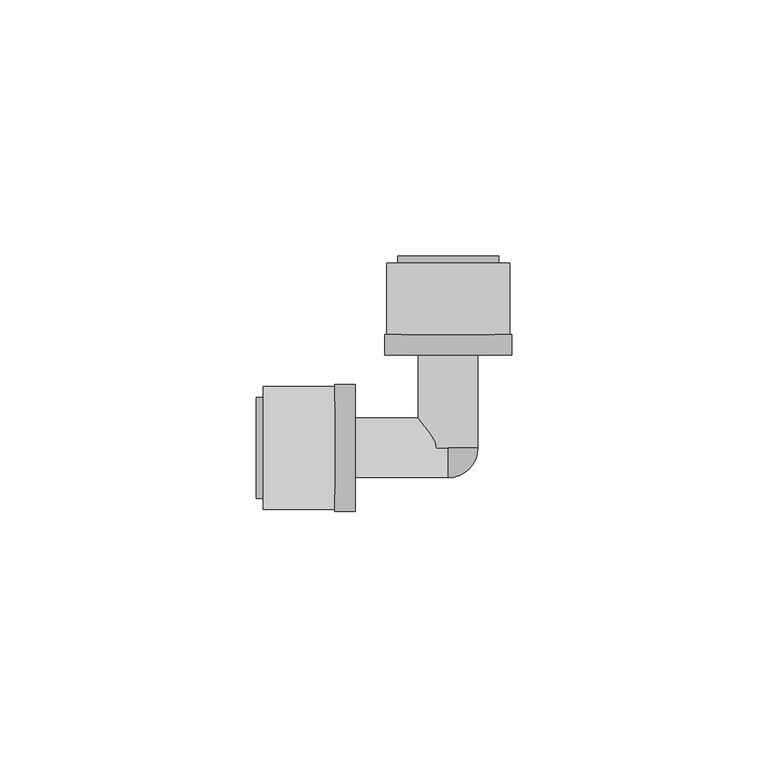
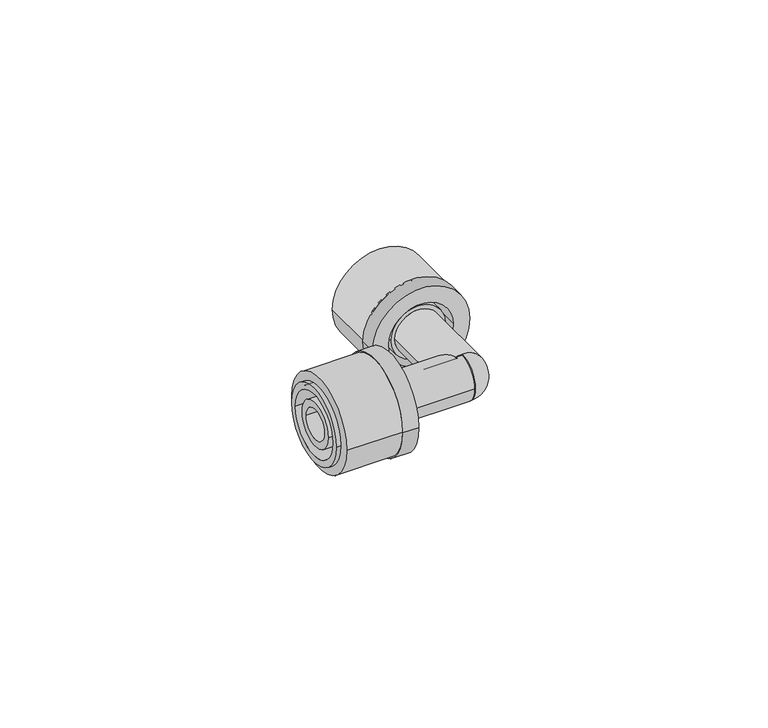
"""IFC4 building model written with IfcOpenShell, lengths in millimetres: pipe fitting geometry, FASTLOC_Corner EX+ : FSL C EX+ AT."""

from ifc_helpers import new_model, si_unit, point, frame, origin, origin_2d, place, context, project, spatial, polyline, circle_curve, ellipse_curve, trimmed, segment, composite_curve, outline, extrude, source, transform, mapped, element, save
from ifc_brep_helpers import plane_surface, cylinder_surface, revolved_surface, advanced_brep


def pipe_fitting_792aeb1b(model_context):
    return source(origin(), model_context, "Body", "SolidModel", [
        extrude(outline(composite_curve([segment(trimmed(circle_curve(origin_2d(), 12.0), [point((0.0, 12.0))], [point((0.0, -12.0))], False, "CARTESIAN"), True, "CONTINUOUS"), segment(trimmed(circle_curve(origin_2d(), 12.0), [point((0.0, -12.0))], [point((0.0, 12.0))], False, "CARTESIAN"), True, "CONTINUOUS")], self_intersect=False), holes=[composite_curve([segment(trimmed(circle_curve(origin_2d(), 8.85), [point((0.0, 8.85))], [point((0.0, -8.85))], True, "CARTESIAN"), True, "CONTINUOUS"), segment(trimmed(circle_curve(origin_2d(), 8.85), [point((0.0, -8.85))], [point((0.0, 8.85))], True, "CARTESIAN"), True, "CONTINUOUS")], self_intersect=False)]), frame((0.0, 22.1, 0.0), z_axis=(0.0, 1.0, 0.0), x_axis=(0.0, 0.0, 1.0)), (0.0, 0.0, 1.0), 14.0),
        advanced_brep(
        [(-12.35, 22.1, 0.0), (12.35, 22.1, 0.0), (12.35, 18.1, 0.0), (-12.35, 18.1, 0.0), (-9.85, 37.4, 0.0), (9.85, 37.4, 0.0), (9.85, 22.1, 0.0), (-9.85, 22.1, 0.0), (-8.15, 18.1, 0.0), (8.15, 18.1, 0.0), (8.15, 37.4, 0.0), (-8.15, 37.4, 0.0)],
        [
            (0, 1, circle_curve(frame((0.0, 22.1, 0.0), z_axis=(0.0, -1.0, 0.0), x_axis=(1.0, 0.0, 0.0)), 12.35)),
            (1, 2),
            (2, 3, circle_curve(frame((0.0, 18.1, 0.0), z_axis=(0.0, 1.0, 0.0), x_axis=(1.0, 0.0, 0.0)), 12.35)),
            (3, 0),
            (4, 5, circle_curve(frame((0.0, 37.4, 0.0), z_axis=(0.0, -1.0, 0.0), x_axis=(1.0, 0.0, 0.0)), 9.85)),
            (5, 6),
            (6, 7, circle_curve(frame((0.0, 22.1, 0.0), z_axis=(0.0, 1.0, 0.0), x_axis=(1.0, 0.0, 0.0)), 9.85)),
            (7, 4),
            (8, 9, circle_curve(frame((0.0, 18.1, 0.0), z_axis=(0.0, -1.0, 0.0), x_axis=(1.0, 0.0, 0.0)), 8.15)),
            (9, 10),
            (10, 11, circle_curve(frame((0.0, 37.4, 0.0), z_axis=(0.0, 1.0, 0.0), x_axis=(1.0, 0.0, 0.0)), 8.15)),
            (11, 8),
            (1, 0, circle_curve(frame((0.0, 22.1, 0.0), z_axis=(0.0, -1.0, 0.0), x_axis=(-1.0, 0.0, 0.0)), 12.35)),
            (3, 2, circle_curve(frame((0.0, 18.1, 0.0), z_axis=(0.0, 1.0, 0.0), x_axis=(-1.0, 0.0, 0.0)), 12.35)),
            (6, 7, circle_curve(frame((0.0, 22.1, 0.0), z_axis=(0.0, -1.0, 0.0), x_axis=(-1.0, 0.0, 0.0)), 9.85)),
            (5, 4, circle_curve(frame((0.0, 37.4, 0.0), z_axis=(0.0, -1.0, 0.0), x_axis=(-1.0, 0.0, 0.0)), 9.85)),
            (10, 11, circle_curve(frame((0.0, 37.4, 0.0), z_axis=(0.0, -1.0, 0.0), x_axis=(-1.0, 0.0, 0.0)), 8.15)),
            (9, 8, circle_curve(frame((0.0, 18.1, 0.0), z_axis=(0.0, -1.0, 0.0), x_axis=(-1.0, 0.0, 0.0)), 8.15)),
        ],
        [
            cylinder_surface(frame((0.0, 18.1, 0.0), z_axis=(0.0, 1.0, 0.0), x_axis=(1.0, 0.0, 0.0)), 12.35),
            cylinder_surface(frame((0.0, 18.1, 0.0), z_axis=(0.0, 1.0, 0.0), x_axis=(1.0, 0.0, 0.0)), 9.85),
            revolved_surface(polyline([(8.15, 37.4, 0.0), (8.15, 18.1, 0.0)]), (0.0, 18.1, 0.0), (0.0, 1.0, 0.0)),
            cylinder_surface(frame((0.0, 18.1, 0.0), z_axis=(0.0, 1.0, 0.0), x_axis=(-1.0, 0.0, 0.0)), 12.35),
            plane_surface(frame((0.0, 22.1, 0.0), z_axis=(0.0, 1.0, 0.0), x_axis=(-1.0, 0.0, 0.0))),
            cylinder_surface(frame((0.0, 18.1, 0.0), z_axis=(0.0, 1.0, 0.0), x_axis=(-1.0, 0.0, 0.0)), 9.85),
            plane_surface(frame((0.0, 37.4, 0.0), z_axis=(0.0, 1.0, 0.0), x_axis=(-1.0, 0.0, 0.0))),
            revolved_surface(polyline([(-8.15, 37.4, 0.0), (-8.15, 18.1, 0.0)]), (0.0, 18.1, 0.0), (0.0, 1.0, 0.0)),
            plane_surface(frame((0.0, 18.1, 0.0), z_axis=(0.0, -1.0, 0.0), x_axis=(-1.0, 0.0, 0.0))),
        ],
        [
            (0, [[1, 2, 3, 4]]),
            (1, [[5, 6, 7, 8]]),
            (2, [[9, 10, 11, 12]]),
            (3, [[13, -4, 14, -2]]),
            (4, [[-13, -1], [15, -7]]),
            (5, [[16, -8, -15, -6]]),
            (6, [[-16, -5], [17, -11]]),
            (7, [[18, -12, -17, -10]]),
            (8, [[-14, -3], [-18, -9]]),
        ],
    ),
        extrude(outline(composite_curve([segment(trimmed(circle_curve(origin_2d(), 12.0), [point((12.0, 0.0))], [point((-12.0, 0.0))], False, "CARTESIAN"), True, "CONTINUOUS"), segment(trimmed(circle_curve(origin_2d(), 12.0), [point((-12.0, 0.0))], [point((12.0, 0.0))], False, "CARTESIAN"), True, "CONTINUOUS")], self_intersect=False), holes=[composite_curve([segment(trimmed(circle_curve(origin_2d(), 8.85), [point((8.85, 0.0))], [point((-8.85, 0.0))], True, "CARTESIAN"), True, "CONTINUOUS"), segment(trimmed(circle_curve(origin_2d(), 8.85), [point((-8.85, 0.0))], [point((8.85, 0.0))], True, "CARTESIAN"), True, "CONTINUOUS")], self_intersect=False)]), frame((-36.1, 0.0, 0.0), z_axis=(1.0, 0.0, 0.0), x_axis=(0.0, 1.0, 0.0)), (0.0, 0.0, 1.0), 14.0),
        advanced_brep(
        [(-22.1, -12.35, 0.0), (-22.1, 12.35, 0.0), (-18.1, 12.35, 0.0), (-18.1, -12.35, 0.0), (-37.4, -9.85, 0.0), (-37.4, 9.85, 0.0), (-22.1, 9.85, 0.0), (-22.1, -9.85, 0.0), (-18.1, -8.15, 0.0), (-18.1, 8.15, 0.0), (-37.4, 8.15, 0.0), (-37.4, -8.15, 0.0)],
        [
            (0, 1, circle_curve(frame((-22.1, 0.0, 0.0), z_axis=(1.0, 0.0, 0.0), x_axis=(0.0, 1.0, 0.0)), 12.35)),
            (1, 2),
            (2, 3, circle_curve(frame((-18.1, 0.0, 0.0), z_axis=(-1.0, 0.0, 0.0), x_axis=(0.0, 1.0, 0.0)), 12.35)),
            (3, 0),
            (4, 5, circle_curve(frame((-37.4, 0.0, 0.0), z_axis=(1.0, 0.0, 0.0), x_axis=(0.0, 1.0, 0.0)), 9.85)),
            (5, 6),
            (6, 7, circle_curve(frame((-22.1, 0.0, 0.0), z_axis=(-1.0, 0.0, 0.0), x_axis=(0.0, 1.0, 0.0)), 9.85)),
            (7, 4),
            (8, 9, circle_curve(frame((-18.1, 0.0, 0.0), z_axis=(1.0, 0.0, 0.0), x_axis=(0.0, 1.0, 0.0)), 8.15)),
            (9, 10),
            (10, 11, circle_curve(frame((-37.4, 0.0, 0.0), z_axis=(-1.0, 0.0, 0.0), x_axis=(0.0, 1.0, 0.0)), 8.15)),
            (11, 8),
            (1, 0, circle_curve(frame((-22.1, 0.0, 0.0), z_axis=(1.0, 0.0, 0.0), x_axis=(0.0, -1.0, 0.0)), 12.35)),
            (3, 2, circle_curve(frame((-18.1, 0.0, 0.0), z_axis=(-1.0, 0.0, 0.0), x_axis=(0.0, -1.0, 0.0)), 12.35)),
            (6, 7, circle_curve(frame((-22.1, 0.0, 0.0), z_axis=(1.0, 0.0, 0.0), x_axis=(0.0, -1.0, 0.0)), 9.85)),
            (5, 4, circle_curve(frame((-37.4, 0.0, 0.0), z_axis=(1.0, 0.0, 0.0), x_axis=(0.0, -1.0, 0.0)), 9.85)),
            (10, 11, circle_curve(frame((-37.4, 0.0, 0.0), z_axis=(1.0, 0.0, 0.0), x_axis=(0.0, -1.0, 0.0)), 8.15)),
            (9, 8, circle_curve(frame((-18.1, 0.0, 0.0), z_axis=(1.0, 0.0, 0.0), x_axis=(0.0, -1.0, 0.0)), 8.15)),
        ],
        [
            cylinder_surface(frame((-18.1, 0.0, 0.0), z_axis=(-1.0, 0.0, 0.0), x_axis=(0.0, 1.0, 0.0)), 12.35),
            cylinder_surface(frame((-18.1, 0.0, 0.0), z_axis=(-1.0, 0.0, 0.0), x_axis=(0.0, 1.0, 0.0)), 9.85),
            revolved_surface(polyline([(-37.4, 8.15, 0.0), (-18.1, 8.15, 0.0)]), (-18.1, 0.0, 0.0), (-1.0, 0.0, 0.0)),
            cylinder_surface(frame((-18.1, 0.0, 0.0), z_axis=(-1.0, 0.0, 0.0), x_axis=(0.0, -1.0, 0.0)), 12.35),
            plane_surface(frame((-22.1, 0.0, 0.0), z_axis=(-1.0, 0.0, 0.0), x_axis=(0.0, -1.0, 0.0))),
            cylinder_surface(frame((-18.1, 0.0, 0.0), z_axis=(-1.0, 0.0, 0.0), x_axis=(0.0, -1.0, 0.0)), 9.85),
            plane_surface(frame((-37.4, 0.0, 0.0), z_axis=(-1.0, 0.0, 0.0), x_axis=(0.0, -1.0, 0.0))),
            revolved_surface(polyline([(-37.4, -8.15, 0.0), (-18.1, -8.15, 0.0)]), (-18.1, 0.0, 0.0), (-1.0, 0.0, 0.0)),
            plane_surface(frame((-18.1, 0.0, 0.0), z_axis=(1.0, 0.0, 0.0), x_axis=(0.0, -1.0, 0.0))),
        ],
        [
            (0, [[1, 2, 3, 4]]),
            (1, [[5, 6, 7, 8]]),
            (2, [[9, 10, 11, 12]]),
            (3, [[13, -4, 14, -2]]),
            (4, [[-13, -1], [15, -7]]),
            (5, [[16, -8, -15, -6]]),
            (6, [[-16, -5], [17, -11]]),
            (7, [[18, -12, -17, -10]]),
            (8, [[-14, -3], [-18, -9]]),
        ],
    ),
        advanced_brep(
        [(0.0, 0.0, 5.8), (0.0, 0.0, 0.0), (0.0, -5.8, 0.0), (0.0, 0.0, -5.8)],
        [
            (0, 1),
            (1, 2),
            (2, 0, circle_curve(frame((0.0, 0.0, 0.0), z_axis=(-1.0, 0.0, 0.0), x_axis=(0.0, 0.0, 1.0)), 5.8)),
            (3, 2, circle_curve(frame((0.0, 0.0, 0.0), z_axis=(-1.0, 0.0, 0.0), x_axis=(0.0, 0.0, -1.0)), 5.8)),
            (1, 3),
            (0, 3, circle_curve(frame((0.0, 0.0, 0.0), z_axis=(0.0, 1.0, 0.0), x_axis=(0.0, 0.0, 1.0)), 5.8)),
        ],
        [
            plane_surface(frame((0.0, 0.0, 0.0), z_axis=(-1.0, 0.0, 0.0), x_axis=(0.0, 0.0, 1.0))),
            plane_surface(frame((0.0, 0.0, 0.0), z_axis=(-1.0, 0.0, 0.0), x_axis=(0.0, 0.0, -1.0))),
            plane_surface(frame((0.0, 0.0, 0.0), z_axis=(0.0, 1.0, 0.0), x_axis=(0.0, 0.0, 1.0))),
            revolved_surface(trimmed(ellipse_curve(frame((0.0, 0.0, 0.0), z_axis=(-1.0, 0.0, 0.0), x_axis=(0.0, 0.0, 1.0)), 5.8, 5.8), [point((0.0, -5.8, 0.0))], [point((0.0, 0.0, 5.8))], True, "CARTESIAN"), (0.0, 0.0, 0.0), (0.0, 1.0, 0.0)),
        ],
        [
            (0, [[1, 2, 3]]),
            (1, [[4, -2, 5]]),
            (2, [[-1, 6, -5]]),
            (3, [[-6, -3, -4]]),
        ],
    ),
        advanced_brep(
        [(3.95, 37.1, 0.0), (-3.95, 37.1, 0.0), (-3.95, 0.0, 0.0), (3.95, 0.0, 0.0), (5.8, 22.1, 0.0), (-5.8, 22.1, 0.0), (-5.8, 37.1, 0.0), (5.8, 37.1, 0.0), (6.9, 19.4, 0.0), (-6.9, 19.4, 0.0), (-6.9, 22.1, 0.0), (6.9, 22.1, 0.0), (5.8, 0.0, 0.0), (-5.8, 0.0, 0.0), (-5.8, 19.4, 0.0), (5.8, 19.4, 0.0)],
        [
            (0, 1, circle_curve(frame((0.0, 37.1, 0.0), z_axis=(0.0, 1.0, 0.0), x_axis=(-1.0, 0.0, 0.0)), 3.95)),
            (1, 2),
            (2, 3, circle_curve(frame((0.0, 0.0, 0.0), z_axis=(0.0, -1.0, 0.0), x_axis=(-1.0, 0.0, 0.0)), 3.95)),
            (3, 0),
            (4, 5, circle_curve(frame((0.0, 22.1, 0.0), z_axis=(0.0, 1.0, 0.0), x_axis=(-1.0, 0.0, 0.0)), 5.8)),
            (5, 6),
            (6, 7, circle_curve(frame((0.0, 37.1, 0.0), z_axis=(0.0, -1.0, 0.0), x_axis=(-1.0, 0.0, 0.0)), 5.8)),
            (7, 4),
            (8, 9, circle_curve(frame((0.0, 19.4, 0.0), z_axis=(0.0, 1.0, 0.0), x_axis=(-1.0, 0.0, 0.0)), 6.9)),
            (9, 10),
            (10, 11, circle_curve(frame((0.0, 22.1, 0.0), z_axis=(0.0, -1.0, 0.0), x_axis=(-1.0, 0.0, 0.0)), 6.9)),
            (11, 8),
            (12, 13, circle_curve(frame((0.0, 0.0, 0.0), z_axis=(0.0, 1.0, 0.0), x_axis=(-1.0, 0.0, 0.0)), 5.8)),
            (13, 14),
            (14, 15, circle_curve(frame((0.0, 19.4, 0.0), z_axis=(0.0, -1.0, 0.0), x_axis=(-1.0, 0.0, 0.0)), 5.8)),
            (15, 12),
            (1, 0, circle_curve(frame((0.0, 37.1, 0.0), z_axis=(0.0, 1.0, 0.0), x_axis=(1.0, 0.0, 0.0)), 3.95)),
            (3, 2, circle_curve(frame((0.0, 0.0, 0.0), z_axis=(0.0, -1.0, 0.0), x_axis=(1.0, 0.0, 0.0)), 3.95)),
            (6, 7, circle_curve(frame((0.0, 37.1, 0.0), z_axis=(0.0, 1.0, 0.0), x_axis=(1.0, 0.0, 0.0)), 5.8)),
            (5, 4, circle_curve(frame((0.0, 22.1, 0.0), z_axis=(0.0, 1.0, 0.0), x_axis=(1.0, 0.0, 0.0)), 5.8)),
            (10, 11, circle_curve(frame((0.0, 22.1, 0.0), z_axis=(0.0, 1.0, 0.0), x_axis=(1.0, 0.0, 0.0)), 6.9)),
            (9, 8, circle_curve(frame((0.0, 19.4, 0.0), z_axis=(0.0, 1.0, 0.0), x_axis=(1.0, 0.0, 0.0)), 6.9)),
            (14, 15, circle_curve(frame((0.0, 19.4, 0.0), z_axis=(0.0, 1.0, 0.0), x_axis=(1.0, 0.0, 0.0)), 5.8)),
            (13, 12, circle_curve(frame((0.0, 0.0, 0.0), z_axis=(0.0, 1.0, 0.0), x_axis=(1.0, 0.0, 0.0)), 5.8)),
        ],
        [
            revolved_surface(polyline([(-3.95, 0.0, 0.0), (-3.95, 37.1, 0.0)]), (0.0, 0.0, 0.0), (0.0, -1.0, 0.0)),
            cylinder_surface(frame((0.0, 0.0, 0.0), z_axis=(0.0, -1.0, 0.0), x_axis=(-1.0, 0.0, 0.0)), 5.8),
            cylinder_surface(frame((0.0, 0.0, 0.0), z_axis=(0.0, -1.0, 0.0), x_axis=(-1.0, 0.0, 0.0)), 6.9),
            revolved_surface(polyline([(3.95, 0.0, 0.0), (3.95, 37.1, 0.0)]), (0.0, 0.0, 0.0), (0.0, -1.0, 0.0)),
            plane_surface(frame((0.0, 37.1, 0.0), z_axis=(0.0, 1.0, 0.0), x_axis=(1.0, 0.0, 0.0))),
            cylinder_surface(frame((0.0, 0.0, 0.0), z_axis=(0.0, -1.0, 0.0), x_axis=(1.0, 0.0, 0.0)), 5.8),
            plane_surface(frame((0.0, 22.1, 0.0), z_axis=(0.0, 1.0, 0.0), x_axis=(1.0, 0.0, 0.0))),
            cylinder_surface(frame((0.0, 0.0, 0.0), z_axis=(0.0, -1.0, 0.0), x_axis=(1.0, 0.0, 0.0)), 6.9),
            plane_surface(frame((0.0, 19.4, 0.0), z_axis=(0.0, -1.0, 0.0), x_axis=(1.0, 0.0, 0.0))),
            plane_surface(frame((0.0, 0.0, 0.0), z_axis=(0.0, -1.0, 0.0), x_axis=(1.0, 0.0, 0.0))),
        ],
        [
            (0, [[1, 2, 3, 4]]),
            (1, [[5, 6, 7, 8]]),
            (2, [[9, 10, 11, 12]]),
            (1, [[13, 14, 15, 16]]),
            (3, [[17, -4, 18, -2]]),
            (4, [[19, -7], [-17, -1]]),
            (5, [[20, -8, -19, -6]]),
            (6, [[21, -11], [-20, -5]]),
            (7, [[22, -12, -21, -10]]),
            (8, [[-22, -9], [23, -15]]),
            (5, [[24, -16, -23, -14]]),
            (9, [[-24, -13], [-18, -3]]),
        ],
    ),
        advanced_brep(
        [(0.0, 5.8, 0.0), (0.0, -5.8, 0.0), (-19.4, -5.8, 0.0), (-19.4, 5.8, 0.0), (-19.4, 6.9, 0.0), (-19.4, -6.9, 0.0), (-22.1, -6.9, 0.0), (-22.1, 6.9, 0.0), (-22.1, 5.8, 0.0), (-22.1, -5.8, 0.0), (-37.1, -5.8, 0.0), (-37.1, 5.8, 0.0), (-37.1, 3.95, 0.0), (-37.1, -3.95, 0.0), (0.0, -3.95, 0.0), (0.0, 3.95, 0.0)],
        [
            (0, 1, circle_curve(frame((0.0, 0.0, 0.0), z_axis=(-1.0, 0.0, 0.0), x_axis=(0.0, -1.0, 0.0)), 5.8)),
            (1, 2),
            (2, 3, circle_curve(frame((-19.4, 0.0, 0.0), z_axis=(1.0, 0.0, 0.0), x_axis=(0.0, -1.0, 0.0)), 5.8)),
            (3, 0),
            (4, 5, circle_curve(frame((-19.4, 0.0, 0.0), z_axis=(-1.0, 0.0, 0.0), x_axis=(0.0, -1.0, 0.0)), 6.9)),
            (5, 6),
            (6, 7, circle_curve(frame((-22.1, 0.0, 0.0), z_axis=(1.0, 0.0, 0.0), x_axis=(0.0, -1.0, 0.0)), 6.9)),
            (7, 4),
            (8, 9, circle_curve(frame((-22.1, 0.0, 0.0), z_axis=(-1.0, 0.0, 0.0), x_axis=(0.0, -1.0, 0.0)), 5.8)),
            (9, 10),
            (10, 11, circle_curve(frame((-37.1, 0.0, 0.0), z_axis=(1.0, 0.0, 0.0), x_axis=(0.0, -1.0, 0.0)), 5.8)),
            (11, 8),
            (12, 13, circle_curve(frame((-37.1, 0.0, 0.0), z_axis=(-1.0, 0.0, 0.0), x_axis=(0.0, -1.0, 0.0)), 3.95)),
            (13, 14),
            (14, 15, circle_curve(frame((0.0, 0.0, 0.0), z_axis=(1.0, 0.0, 0.0), x_axis=(0.0, -1.0, 0.0)), 3.95)),
            (15, 12),
            (0, 1, circle_curve(frame((0.0, 0.0, 0.0), z_axis=(1.0, 0.0, 0.0), x_axis=(0.0, 1.0, 0.0)), 5.8)),
            (14, 15, circle_curve(frame((0.0, 0.0, 0.0), z_axis=(-1.0, 0.0, 0.0), x_axis=(0.0, 1.0, 0.0)), 3.95)),
            (3, 2, circle_curve(frame((-19.4, 0.0, 0.0), z_axis=(1.0, 0.0, 0.0), x_axis=(0.0, 1.0, 0.0)), 5.8)),
            (4, 5, circle_curve(frame((-19.4, 0.0, 0.0), z_axis=(1.0, 0.0, 0.0), x_axis=(0.0, 1.0, 0.0)), 6.9)),
            (7, 6, circle_curve(frame((-22.1, 0.0, 0.0), z_axis=(1.0, 0.0, 0.0), x_axis=(0.0, 1.0, 0.0)), 6.9)),
            (8, 9, circle_curve(frame((-22.1, 0.0, 0.0), z_axis=(1.0, 0.0, 0.0), x_axis=(0.0, 1.0, 0.0)), 5.8)),
            (11, 10, circle_curve(frame((-37.1, 0.0, 0.0), z_axis=(1.0, 0.0, 0.0), x_axis=(0.0, 1.0, 0.0)), 5.8)),
            (12, 13, circle_curve(frame((-37.1, 0.0, 0.0), z_axis=(1.0, 0.0, 0.0), x_axis=(0.0, 1.0, 0.0)), 3.95)),
        ],
        [
            cylinder_surface(frame((0.0, 0.0, 0.0), z_axis=(1.0, 0.0, 0.0), x_axis=(0.0, -1.0, 0.0)), 5.8),
            cylinder_surface(frame((0.0, 0.0, 0.0), z_axis=(1.0, 0.0, 0.0), x_axis=(0.0, -1.0, 0.0)), 6.9),
            revolved_surface(polyline([(0.0, -3.95, 0.0), (-37.1, -3.95, 0.0)]), (0.0, 0.0, 0.0), (1.0, 0.0, 0.0)),
            plane_surface(frame((0.0, 0.0, 0.0), z_axis=(1.0, 0.0, 0.0), x_axis=(0.0, 1.0, 0.0))),
            cylinder_surface(frame((0.0, 0.0, 0.0), z_axis=(1.0, 0.0, 0.0), x_axis=(0.0, 1.0, 0.0)), 5.8),
            plane_surface(frame((-19.4, 0.0, 0.0), z_axis=(1.0, 0.0, 0.0), x_axis=(0.0, 1.0, 0.0))),
            cylinder_surface(frame((0.0, 0.0, 0.0), z_axis=(1.0, 0.0, 0.0), x_axis=(0.0, 1.0, 0.0)), 6.9),
            plane_surface(frame((-22.1, 0.0, 0.0), z_axis=(-1.0, 0.0, 0.0), x_axis=(0.0, 1.0, 0.0))),
            plane_surface(frame((-37.1, 0.0, 0.0), z_axis=(-1.0, 0.0, 0.0), x_axis=(0.0, 1.0, 0.0))),
            revolved_surface(polyline([(0.0, 3.95, 0.0), (-37.1, 3.95, 0.0)]), (0.0, 0.0, 0.0), (1.0, 0.0, 0.0)),
        ],
        [
            (0, [[1, 2, 3, 4]]),
            (1, [[5, 6, 7, 8]]),
            (0, [[9, 10, 11, 12]]),
            (2, [[13, 14, 15, 16]]),
            (3, [[17, -1], [18, -15]]),
            (4, [[-17, -4, 19, -2]]),
            (5, [[20, -5], [-19, -3]]),
            (6, [[-20, -8, 21, -6]]),
            (7, [[-21, -7], [22, -9]]),
            (4, [[-22, -12, 23, -10]]),
            (8, [[-23, -11], [24, -13]]),
            (9, [[-24, -16, -18, -14]]),
        ],
    ),
    ])


if __name__ == "__main__":
    model = new_model("IFC4")
    model_context = context("Model", 3, world=origin())
    ifc_project = project(units=[si_unit("LENGTHUNIT", "METRE", prefix="MILLI")], contexts=[model_context])
    site = spatial("IfcSite", under=ifc_project)
    building = spatial("IfcBuilding", under=site)
    placement = place(None, origin())
    pipe_fitting_shape = pipe_fitting_792aeb1b(model_context)
    element("IfcPipeFitting", 1, ObjectType="FASTLOC_Corner EX+ : FSL C EX+ AT", at=placement, inside=building, context=model_context, shape_type="MappedRepresentation", body=[
        mapped(pipe_fitting_shape, transform((0.0, 0.0, 0.0), x_axis=(1.0, 0.0, 0.0), y_axis=(0.0, 1.0, 0.0), z_axis=(0.0, 0.0, 1.0))),
    ])
    save(model, "model.ifc")
